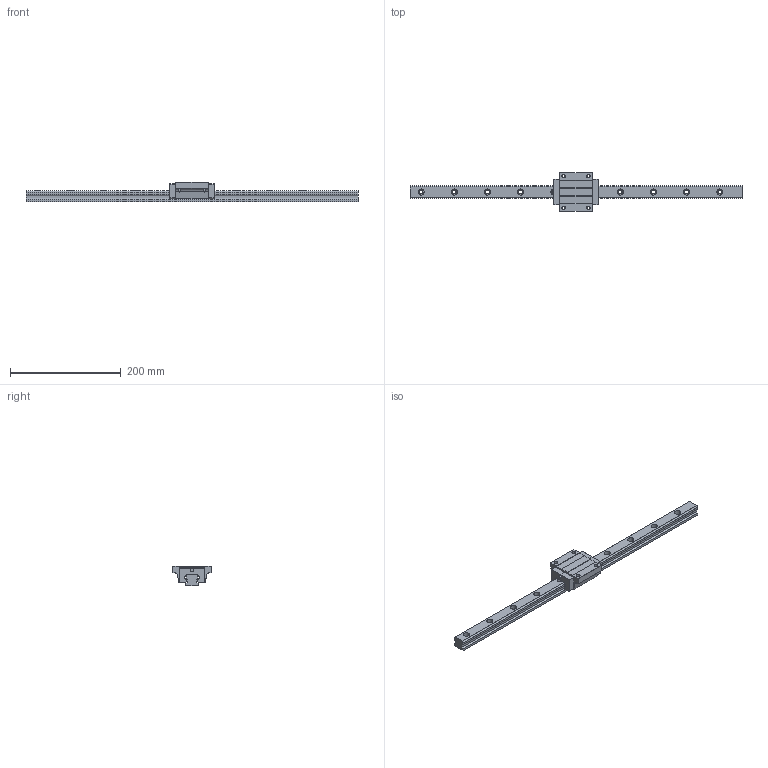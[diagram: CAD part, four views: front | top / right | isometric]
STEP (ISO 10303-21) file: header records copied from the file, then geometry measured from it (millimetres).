
FILE_DESCRIPTION (( 'STEP AP203' ), '1' );
FILE_NAME ('TRH25FN-XN.STEP', '2023-01-31T09:26:13', ( '' ), ( '' ), 'SwSTEP 2.0', 'SolidWorks 2019', '' );
FILE_SCHEMA (( 'CONFIG_CONTROL_DESIGN' ));
Length unit declared in the file: millimetre
Products named in the file (1): TRH25FN-XN
Bounding box: 600 x 70 x 36 mm (x, y, z)
Volume: 333952.9 mm3; surface area: 83443.1 mm2
Topology: 4 solids, 4 shells, 190 faces, 502 edges, 328 vertices
Faces by surface type: plane 94, cylinder 92, sphere 4
Entity records: 6329 total; most frequent: CARTESIAN_POINT 1389, DIRECTION 1032, ORIENTED_EDGE 996, EDGE_CURVE 498, AXIS2_PLACEMENT_3D 363, VERTEX_POINT 328, VECTOR 306, LINE 306
